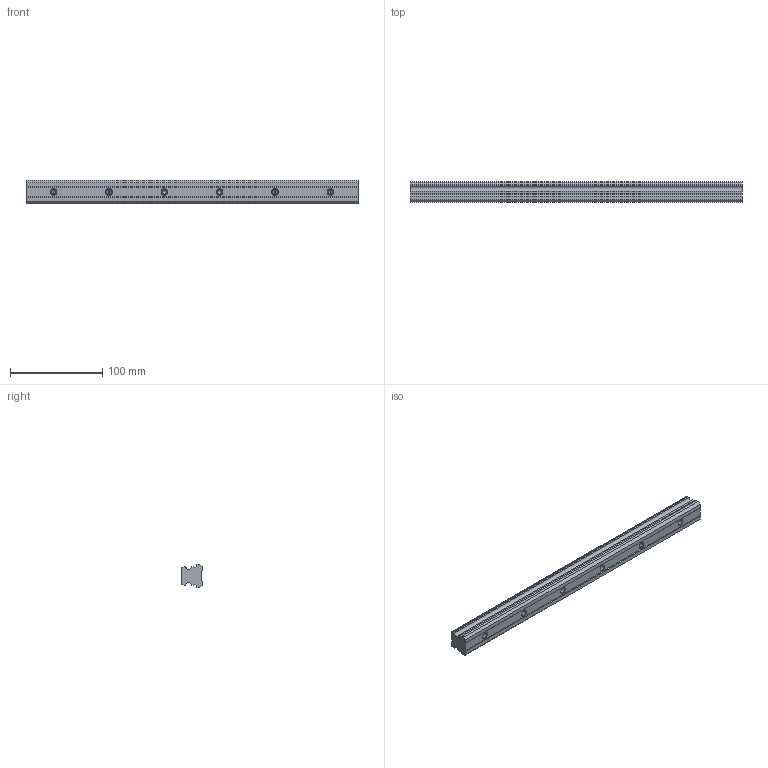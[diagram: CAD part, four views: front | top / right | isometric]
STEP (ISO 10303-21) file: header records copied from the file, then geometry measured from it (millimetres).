
FILE_DESCRIPTION (( 'STEP AP203' ), '1' );
FILE_NAME ('L1018.25R-0360.step', '2023-08-06T10:32:43', ( '' ), ( '' ), 'SwSTEP 2.0', 'SolidWorks 2019', '' );
FILE_SCHEMA (( 'CONFIG_CONTROL_DESIGN' ));
Length unit declared in the file: millimetre
Products named in the file (1): L1018.25R-0360
Bounding box: 360 x 21.8 x 25 mm (x, y, z)
Volume: 149719.7 mm3; surface area: 36593 mm2
Topology: 1 solids, 1 shells, 83 faces, 201 edges, 120 vertices
Faces by surface type: plane 32, cylinder 27, cone 24
Entity records: 2402 total; most frequent: DIRECTION 423, CARTESIAN_POINT 393, ORIENTED_EDGE 378, EDGE_CURVE 189, AXIS2_PLACEMENT_3D 150, LINE 123, VECTOR 123, VERTEX_POINT 120
